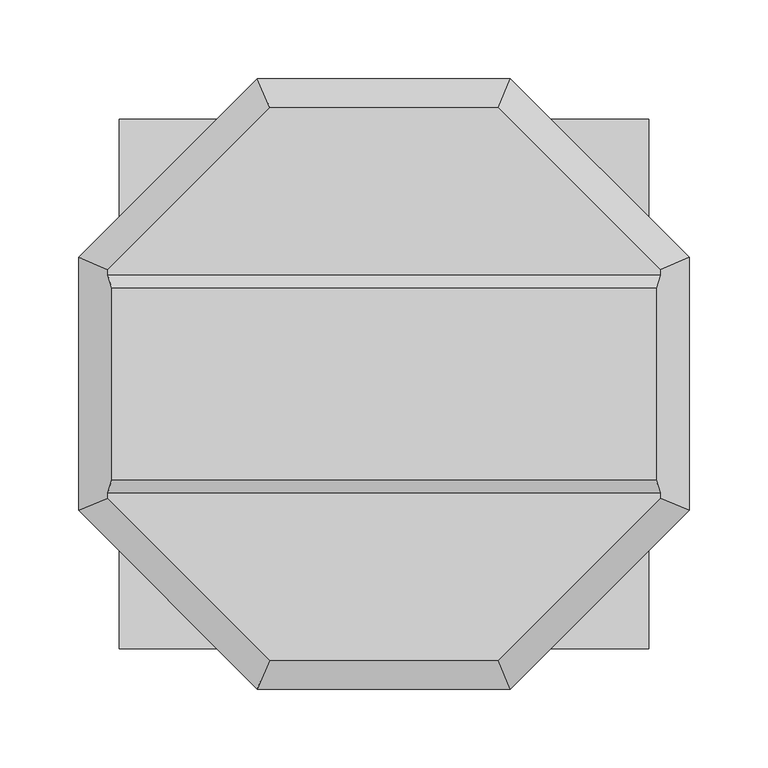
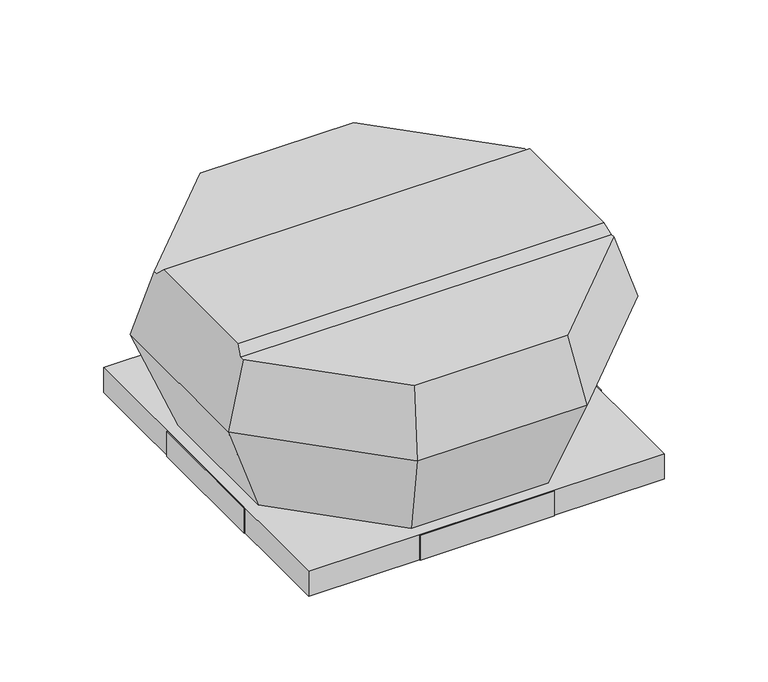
"""IFC4 building model written with IfcOpenShell, lengths in millimetres: unitary equipment geometry, VE-Wentylator-ParaForma-Harmann-VIVER_EC-Wywiewny : 2-250/1200EC."""

from ifc_helpers import new_model, si_unit, origin, place, context, project, spatial, faceted_brep, source, transform, mapped, element, save


def unitary_equipment_bfcc23b5(model_context):
    return source(origin(), model_context, "Body", "Brep", [
        faceted_brep([(173.3063815, -61.0, 166.3), (173.3063815, 61.0, 166.3), (-173.3063815, 61.0, 166.3), (-173.3063815, -61.0, 166.3), (175.7547473, 69.1, 158.2), (-175.7547473, 69.1, 158.2), (175.7547473, -69.1, 158.2), (-175.7547473, -69.1, 158.2), (72.8, -175.7547473, 158.2), (175.7547473, -72.8, 158.2), (-175.7547473, -72.8, 158.2), (-72.8, -175.7547473, 158.2), (175.7547473, 72.8, 158.2), (72.8, 175.7547473, 158.2), (-72.8, 175.7547473, 158.2), (-175.7547473, 72.8, 158.2), (80.5, -194.3441918, 96.7), (194.3441918, -80.5, 96.7), (194.3441918, 80.5, 96.7), (80.5, 194.3441918, 96.7), (-80.5, 194.3441918, 96.7), (-194.3441918, 80.5, 96.7), (-194.3441918, -80.5, 96.7), (-80.5, -194.3441918, 96.7), (65.05, -157.0445922, 1.0), (-65.05, -157.0445922, 1.0), (-157.0445922, -65.05, 1.0), (-157.0445922, 65.05, 1.0), (-65.05, 157.0445922, 1.0), (65.05, 157.0445922, 1.0), (157.0445922, 65.05, 1.0), (157.0445922, -65.05, 1.0)], [[[0, 1, 2, 3]], [[1, 4, 5, 2]], [[6, 0, 3, 7]], [[8, 9, 6, 7, 10, 11]], [[12, 13, 14, 15, 5, 4]], [[9, 8, 16, 17]], [[9, 17, 18, 12, 4, 1, 0, 6]], [[13, 12, 18, 19]], [[14, 13, 19, 20]], [[15, 14, 20, 21]], [[15, 21, 22, 10, 7, 3, 2, 5]], [[11, 10, 22, 23]], [[8, 11, 23, 16]], [[24, 25, 26, 27, 28, 29, 30, 31]], [[24, 31, 17, 16]], [[31, 30, 18, 17]], [[30, 29, 19, 18]], [[29, 28, 20, 19]], [[28, 27, 21, 20]], [[27, 26, 22, 21]], [[26, 25, 23, 22]], [[25, 24, 16, 23]]]),
        faceted_brep([(167.5, 167.5, -24.0), (167.5, 167.5, 0.0), (-167.5, 167.5, 0.0), (-167.5, 167.5, -24.0), (168.5, 168.5, 1.0), (168.5, 168.5, -24.0), (-168.5, 168.5, -24.0), (-168.5, 168.5, 1.0), (-167.5, -167.5, 0.0), (-167.5, -167.5, -24.0), (-168.5, -168.5, -24.0), (-168.5, -168.5, 1.0), (167.5, -167.5, 0.0), (167.5, -167.5, -24.0), (168.5, -168.5, -24.0), (168.5, -168.5, 1.0)], [[[0, 1, 2, 3]], [[4, 5, 6, 7]], [[3, 2, 8, 9]], [[7, 6, 10, 11]], [[9, 8, 12, 13]], [[11, 10, 14, 15]], [[13, 12, 1, 0]], [[5, 14, 10, 6], [3, 9, 13, 0]], [[15, 14, 5, 4]], [[7, 11, 15, 4]], [[1, 12, 8, 2]]]),
        faceted_brep([(-168.5, -63.7, -24.0), (-169.5, -63.7, -24.0), (-169.5, 63.7, -24.0), (-168.5, 63.7, -24.0), (-168.5, -63.7, 1.0), (-168.5, 63.7, 1.0), (-169.5, 63.7, 1.0), (-169.5, -63.7, 1.0)], [[[0, 1, 2, 3]], [[4, 5, 6, 7]], [[1, 0, 4, 7]], [[2, 1, 7, 6]], [[3, 2, 6, 5]], [[0, 3, 5, 4]]]),
        faceted_brep([(169.5, -63.7, -24.0), (168.5, -63.7, -24.0), (168.5, 63.7, -24.0), (169.5, 63.7, -24.0), (169.5, 63.7, 1.0), (168.5, 63.7, 1.0), (168.5, 5.0, 1.0), (168.5, -5.0, 1.0), (168.5, -63.7, 1.0), (169.5, -63.7, 1.0), (169.5, -5.0, 1.0), (169.5, 5.0, 1.0)], [[[0, 1, 2, 3]], [[4, 5, 6, 7, 8, 9, 10, 11]], [[1, 0, 9, 8]], [[2, 1, 8, 7, 6, 5]], [[3, 2, 5, 4]], [[0, 3, 4, 11, 10, 9]]]),
        faceted_brep([(63.7, 168.5, -24.0), (-63.7, 168.5, -24.0), (-63.7, 169.5, -24.0), (63.7, 169.5, -24.0), (63.7, 168.5, 1.0), (63.7, 169.5, 1.0), (-63.7, 169.5, 1.0), (-63.7, 168.5, 1.0)], [[[0, 1, 2, 3]], [[4, 5, 6, 7]], [[1, 0, 4, 7]], [[2, 1, 7, 6]], [[3, 2, 6, 5]], [[0, 3, 5, 4]]]),
        faceted_brep([(63.7, -169.5, -24.0), (-63.7, -169.5, -24.0), (-63.7, -168.5, -24.0), (63.7, -168.5, -24.0), (63.7, -169.5, 1.0), (63.7, -168.5, 1.0), (-63.7, -168.5, 1.0), (-63.7, -169.5, 1.0)], [[[0, 1, 2, 3]], [[4, 5, 6, 7]], [[1, 0, 4, 7]], [[2, 1, 7, 6]], [[3, 2, 6, 5]], [[0, 3, 5, 4]]]),
    ])


if __name__ == "__main__":
    model = new_model("IFC4")
    model_context = context("Model", 3, world=origin())
    ifc_project = project(units=[si_unit("LENGTHUNIT", "METRE", prefix="MILLI")], contexts=[model_context])
    site = spatial("IfcSite", under=ifc_project)
    building = spatial("IfcBuilding", under=site)
    placement = place(None, origin())
    unitary_equipment_shape = unitary_equipment_bfcc23b5(model_context)
    element("IfcUnitaryEquipment", 1, ObjectType="VE-Wentylator-ParaForma-Harmann-VIVER_EC-Wywiewny : 2-250/1200EC", at=placement, inside=building, context=model_context, shape_type="MappedRepresentation", body=[
        mapped(unitary_equipment_shape, transform((0.0, 0.0, 0.0), x_axis=(1.0, 0.0, 0.0), y_axis=(0.0, 1.0, 0.0), z_axis=(0.0, 0.0, 1.0))),
    ])
    save(model, "model.ifc")
